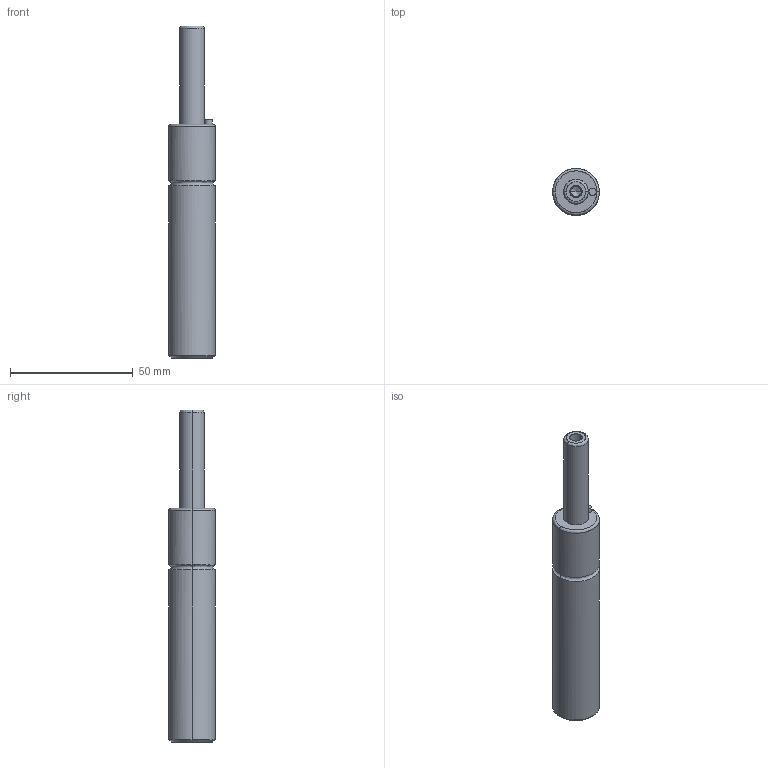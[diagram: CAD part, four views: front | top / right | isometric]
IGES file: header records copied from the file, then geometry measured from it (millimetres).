
Global section: file name: E:\UnigraphicsGraphicData\MISUMI_PRESS-PARTS\IGES\3d_gsm19-38_03951_r00.igs; native system: NX V5.0; preprocessor: UGS NX IGES V5.0; author: MISUMI; date: 20110105.160805; units: millimetre
Bounding box: 19 x 19 x 135 mm (x, y, z)
Surface area: 7812.5 mm2 (no closed solid volume)
Topology: 0 solids, 0 shells, 34 faces, 208 edges, 204 vertices
Faces by surface type: bspline 34
